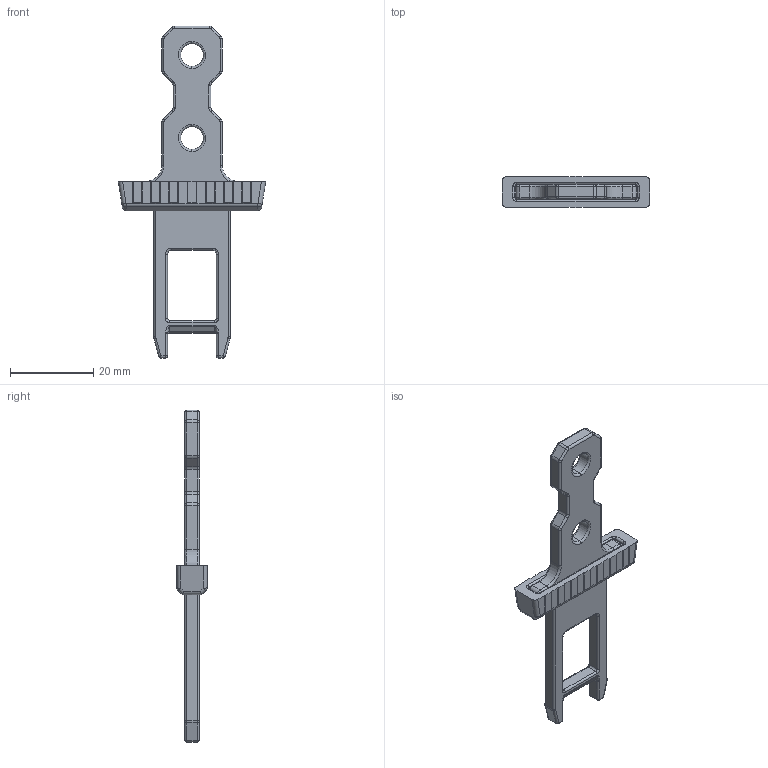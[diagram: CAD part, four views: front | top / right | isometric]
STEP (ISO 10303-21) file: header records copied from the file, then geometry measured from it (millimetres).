
FILE_DESCRIPTION (( 'STEP AP214' ), '1' );
FILE_NAME ('ACIS-MRL.STEP', '2015-10-29T10:23:23', ( '' ), ( '' ), 'SwSTEP 2.0', 'SolidWorks 2015', '' );
FILE_SCHEMA (( 'AUTOMOTIVE_DESIGN' ));
Length unit declared in the file: millimetre
Products named in the file (1): ACIS-MRL
Bounding box: 35.5 x 7.7 x 80 mm (x, y, z)
Surface area: 4015.3 mm2 (no closed solid volume)
Topology: 0 solids, 2 shells, 342 faces, 890 edges, 544 vertices
Faces by surface type: cylinder 174, plane 88, bspline 80
Entity records: 15678 total; most frequent: CARTESIAN_POINT 4153, ORIENTED_EDGE 1692, DIRECTION 1532, EDGE_CURVE 886, AXIS2_PLACEMENT_3D 551, VERTEX_POINT 544, VECTOR 430, LINE 430
